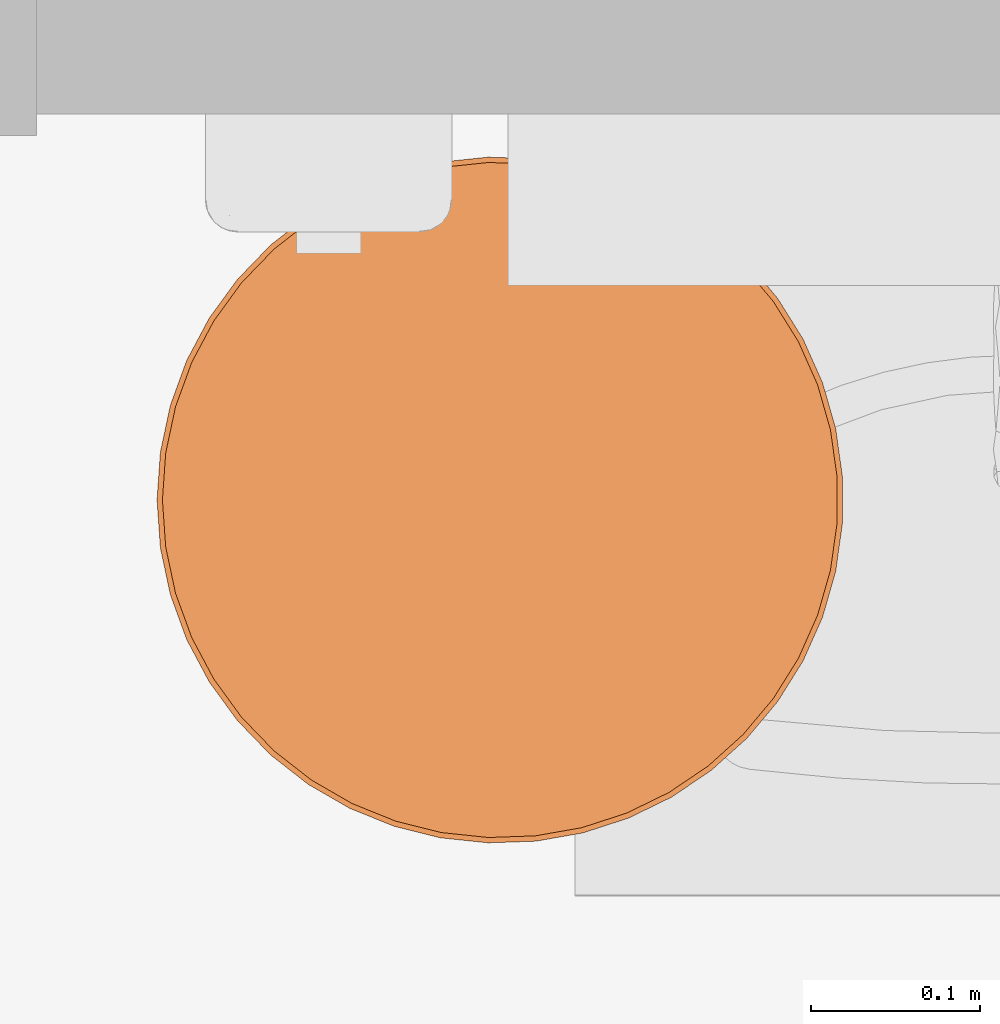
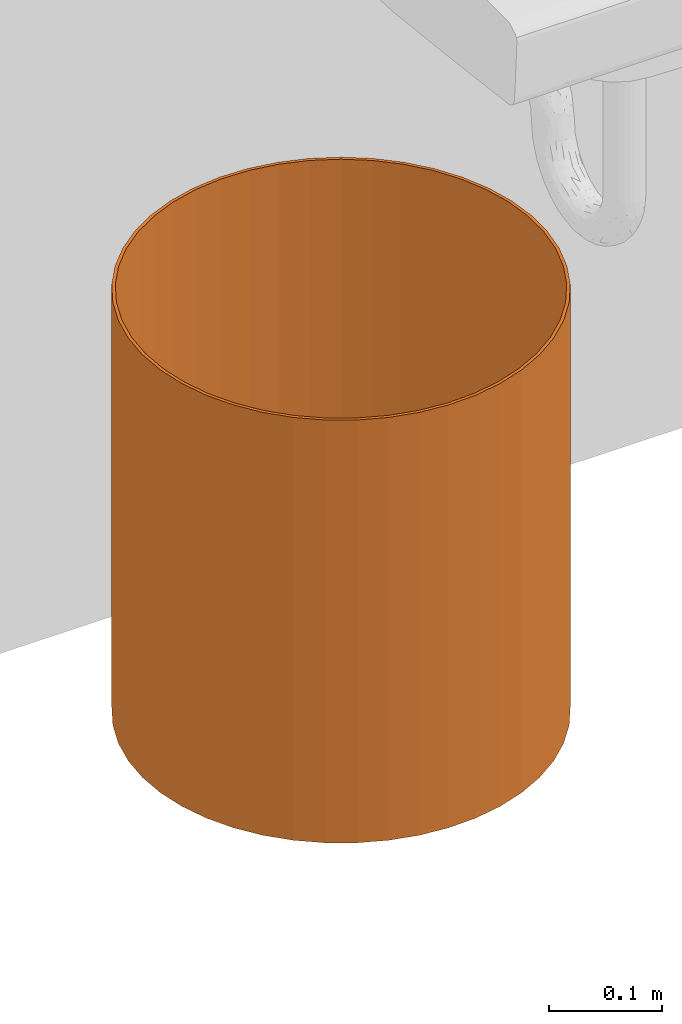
# One storey, part 115 of 142: 1 proxy.
"""IFC2X3 building model written with IfcOpenShell, lengths in feet."""

from ifc_helpers import new_model, entity, si_unit, converted_unit, derived_unit, direction, frame, frame_2d, origin, place, context, subcontext, project, spatial, circle, hollow_circle, extrude, source, transform, mapped, type_object, type_shapes, element, save


model = new_model("IFC2X3")

# Units and contexts
model_context = context("Model", 3, precision=0.0001, world=origin(), true_north=direction((6.12303176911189e-17, 1.0)))
body_context = subcontext(model_context, "Body", "Model", "MODEL_VIEW")
ifc_project = project(units=[converted_unit("LENGTHUNIT", "FOOT", entity("IfcRatioMeasure", 0.3048), si_unit("LENGTHUNIT", "METRE"), dimensions=[1, 0, 0, 0, 0, 0, 0]), converted_unit("AREAUNIT", "SQUARE FOOT", entity("IfcRatioMeasure", 0.09290304), si_unit("AREAUNIT", "SQUARE_METRE"), dimensions=[2, 0, 0, 0, 0, 0, 0]), converted_unit("VOLUMEUNIT", "CUBIC FOOT", entity("IfcRatioMeasure", 0.028316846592), si_unit("VOLUMEUNIT", "CUBIC_METRE"), dimensions=[3, 0, 0, 0, 0, 0, 0]), converted_unit("PLANEANGLEUNIT", "DEGREE", entity("IfcRatioMeasure", 0.0174532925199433), si_unit("PLANEANGLEUNIT", "RADIAN"), dimensions=[0, 0, 0, 0, 0, 0, 0]), si_unit("MASSUNIT", "GRAM", prefix="KILO"), derived_unit("MASSDENSITYUNIT", [(si_unit("MASSUNIT", "GRAM", prefix="KILO"), 1), (si_unit("LENGTHUNIT", "METRE"), -3)]), si_unit("TIMEUNIT", "SECOND"), si_unit("FREQUENCYUNIT", "HERTZ"), si_unit("THERMODYNAMICTEMPERATUREUNIT", "DEGREE_CELSIUS"), derived_unit("THERMALTRANSMITTANCEUNIT", [(si_unit("MASSUNIT", "GRAM", prefix="KILO"), 1), (si_unit("THERMODYNAMICTEMPERATUREUNIT", "KELVIN"), -1), (si_unit("TIMEUNIT", "SECOND"), -3)]), derived_unit("VOLUMETRICFLOWRATEUNIT", [(si_unit("LENGTHUNIT", "METRE"), 3), (si_unit("TIMEUNIT", "SECOND"), -1)]), si_unit("ELECTRICCURRENTUNIT", "AMPERE"), si_unit("ELECTRICVOLTAGEUNIT", "VOLT"), si_unit("POWERUNIT", "WATT"), si_unit("FORCEUNIT", "NEWTON"), si_unit("ILLUMINANCEUNIT", "LUX"), si_unit("LUMINOUSFLUXUNIT", "LUMEN"), si_unit("LUMINOUSINTENSITYUNIT", "CANDELA"), derived_unit("USERDEFINED", [(si_unit("MASSUNIT", "GRAM", prefix="KILO"), -1), (si_unit("LENGTHUNIT", "METRE"), -2), (si_unit("TIMEUNIT", "SECOND"), 3), (si_unit("LUMINOUSFLUXUNIT", "LUMEN"), 1)]), derived_unit("LINEARVELOCITYUNIT", [(si_unit("LENGTHUNIT", "METRE"), 1), (si_unit("TIMEUNIT", "SECOND"), -1)]), si_unit("PRESSUREUNIT", "PASCAL"), derived_unit("USERDEFINED", [(si_unit("LENGTHUNIT", "METRE"), -2), (si_unit("MASSUNIT", "GRAM", prefix="KILO"), 1), (si_unit("TIMEUNIT", "SECOND"), -2)])], contexts=[model_context])

# Site, building, storey, space
site_placement = place(None, origin())
site = spatial("IfcSite", under=ifc_project, at=site_placement, Name="Default", CompositionType="ELEMENT")
building_placement = place(site_placement, origin())
building = spatial("IfcBuilding", under=site, at=building_placement, Name="OUTPATIENT / PACT CLINIC (Ch. 265)", CompositionType="ELEMENT")
storey_placement = place(building_placement, origin())
storey = spatial("IfcBuildingStorey", under=building, at=storey_placement, Name="LEVEL 1", CompositionType="ELEMENT", Elevation=0.0)
space_placement = place(storey_placement, origin())
space = spatial("IfcSpace", under=storey, at=space_placement, Name="TPG01", CompositionType="ELEMENT", InteriorOrExteriorSpace="INTERNAL")

# Proxy
building_element_proxy_type = type_object("IfcBuildingElementProxyType", Name="F2000 - Basket, Wastepaper", PredefinedType="NOTDEFINED")
shared_shape = source(origin(), body_context, "Body", "SweptSolid", [
    extrude(circle(Radius=0.666666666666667, at=frame_2d((0.0, -1.07702971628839e-15), x_axis=(1.0, 0.0))), origin(), (0.0, 0.0, 1.0), 0.0104166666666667),
    extrude(hollow_circle(Radius=0.666666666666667, WallThickness=0.0104166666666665, at=frame_2d((0.0, -1.07702971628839e-15), x_axis=(1.0, 0.0))), frame((0.0, 0.0, 0.0104166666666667)), (0.0, 0.0, 1.0), 1.48958333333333),
])
type_shapes(building_element_proxy_type, [shared_shape])
proxy_placement = place(space_placement, frame((445.254977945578, -932.795508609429, 0.0), z_axis=(0.0, 0.0, 1.0), x_axis=(-1.0, 0.0, 0.0)))
element("IfcBuildingElementProxy", 1, at=proxy_placement, inside=space, type_object=building_element_proxy_type, Name="F2000 - Basket, Wastepaper:F2000 - Basket, Wastepaper", ObjectType="F2000 - Basket, Wastepaper", context=body_context, shape_type="MappedRepresentation", body=[
    mapped(shared_shape, transform((0.0, 0.0, 0.0), scale=1.0)),
])

save(model, "model.ifc")
